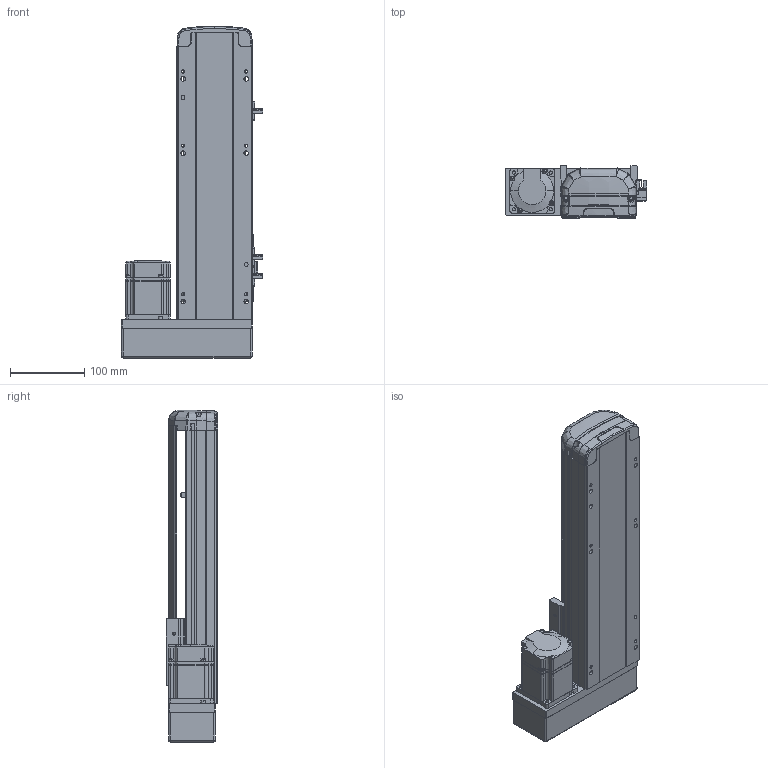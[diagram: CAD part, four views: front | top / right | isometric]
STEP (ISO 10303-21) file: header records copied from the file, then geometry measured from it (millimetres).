
FILE_DESCRIPTION (( 'STEP AP214' ), '1' );
FILE_NAME ('RTH10-XX-200-L-M20-C4.STEP', '2025-10-25T03:43:44', ( 'Microsoft' ), ( 'Microsoft' ), 'SwSTEP 2.0', 'SolidWorks 2018', '' );
FILE_SCHEMA (( 'AUTOMOTIVE_DESIGN' ));
Length unit declared in the file: millimetre
Products named in the file (10): N_RTH12-M-007P-奻裔^RTH10-XX-XX-L-M20-C4; N_RTH12-M-011P-臏倰第菁釱^RTH10-XX-XX-L-M20-C4; N_RTH13-L-012覜茼え俋离^RTH10-XX-XX-L-M20-C4; N_200W-1^RTH10-XX-XX-L-M20-C4; RTH10-XX-200-L-M20-C4; N_RTH12-L-008萇儂啣^RTH10-XX-XX-L-M20-C4; N_RTH12-GY-001P^RTH10-XX-XX-L-M20-C4; N_RTH12-L-018-裔赽^RTH10-XX-XX-L-M20-C4; N_RTH12-GY-004-賑釱^RTH10-XX-XX-L-M20-C4; N_OMRON EE-SX672 传感器^RTH10-XX-XX-L-M20-C4
Assembly tree (11 placements, depth 2):
  RTH10-XX-200-L-M20-C4
    N_RTH12-M-011P-臏倰第菁釱^RTH10-XX-XX-L-M20-C4
    N_RTH13-L-012覜茼え俋离^RTH10-XX-XX-L-M20-C4
    N_OMRON EE-SX672 传感器^RTH10-XX-XX-L-M20-C4  x3
    N_200W-1^RTH10-XX-XX-L-M20-C4
    N_RTH12-M-007P-奻裔^RTH10-XX-XX-L-M20-C4
    N_RTH12-L-008萇儂啣^RTH10-XX-XX-L-M20-C4
    N_RTH12-L-018-裔赽^RTH10-XX-XX-L-M20-C4
    N_RTH12-GY-004-賑釱^RTH10-XX-XX-L-M20-C4
    N_RTH12-GY-001P^RTH10-XX-XX-L-M20-C4
Bounding box: 190 x 70 x 447.31 mm (x, y, z)
Volume: 2412674.8 mm3; surface area: 379512.1 mm2
Topology: 10 solids, 12 shells, 1936 faces, 5377 edges, 3529 vertices
Faces by surface type: plane 975, bspline 472, cylinder 454, cone 29, sphere 4, torus 2
Entity records: 57863 total; most frequent: CARTESIAN_POINT 22933, ORIENTED_EDGE 7826, DIRECTION 6011, EDGE_CURVE 3919, VERTEX_POINT 2573, VECTOR 2117, LINE 2117, AXIS2_PLACEMENT_3D 1947
